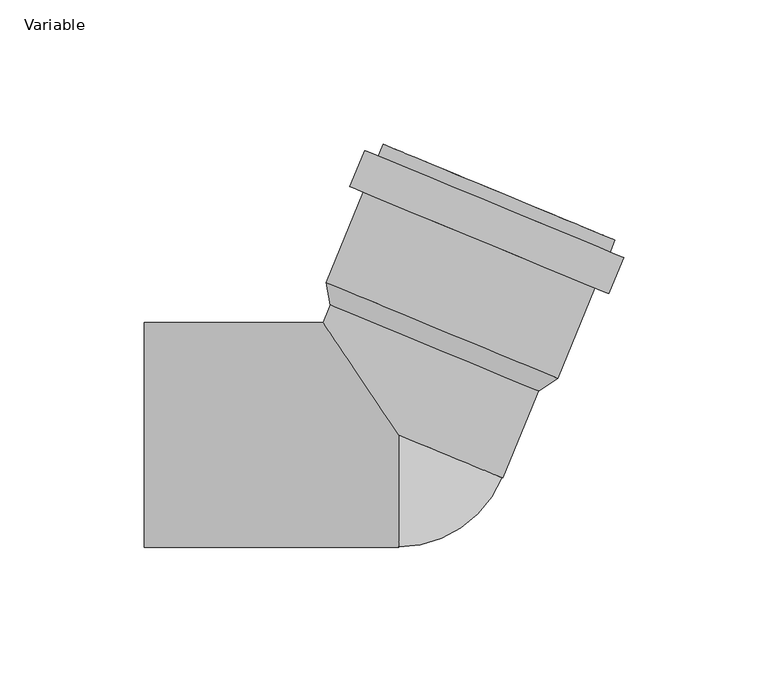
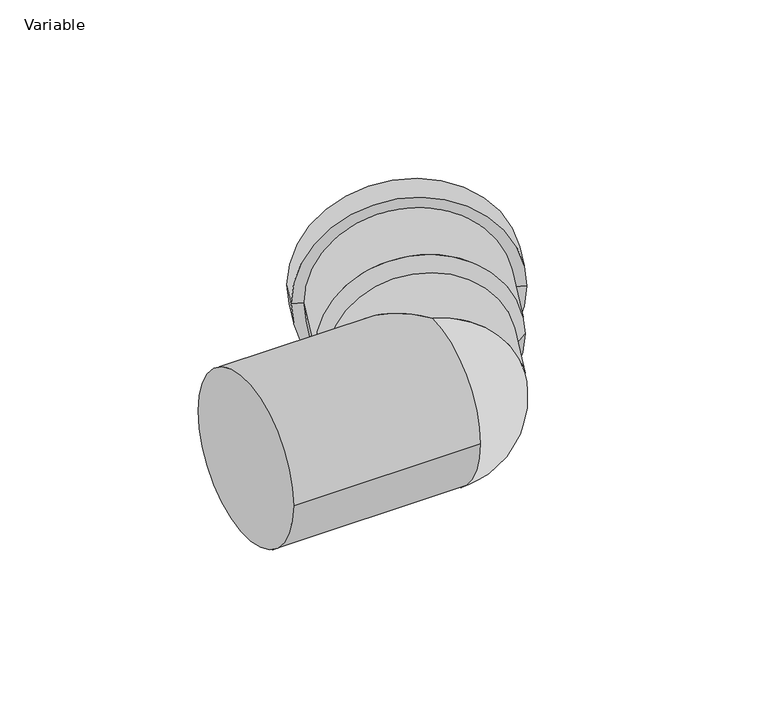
"""IFC4 building model written with IfcOpenShell, lengths in millimetres: pipe fitting geometry, AliaxisFR_Friaphon_ElbowMF_FR : Variable."""

from ifc_helpers import new_model, si_unit, point, frame, origin, place, context, project, spatial, polyline, circle_curve, ellipse_curve, trimmed, source, transform, mapped, element, save
from ifc_brep_helpers import plane_surface, cylinder_surface, revolved_surface, advanced_brep


def variable_9fc40194(model_context):
    return source(origin(), model_context, "Body", "AdvancedBrep", [
        advanced_brep(
        [(74.9205641, 67.4645765, 0.0), (-5.2721794, 100.6814984, 0.0), (-1.2071094, 98.9976913, 0.0), (70.8554941, 69.1483836, 0.0), (72.7440479, 48.8830594, 0.0), (-16.8722668, 86.0033523, 0.0), (-11.6677721, 98.568114, 0.0), (77.9485426, 61.447821, 0.0), (68.0322623, 50.8347449, 0.0), (-12.1604811, 84.0516668, 0.0), (55.0975623, 19.6076167, 0.0), (-25.0951812, 52.8245386, 0.0), (-23.5558219, 45.0431266, 0.0), (48.5067817, 15.1938189, 0.0), (73.236757, 63.3995066, 0.0), (-6.9559865, 96.6164285, 0.0)],
        [
            (0, 1, circle_curve(frame((34.8241923, 84.0730375, 0.0), z_axis=(0.38268343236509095, 0.9238795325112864, 0.0), x_axis=(-0.9238795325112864, 0.38268343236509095, 0.0)), 43.4)),
            (1, 2),
            (2, 3, circle_curve(frame((34.8241923, 84.0730375, 0.0), z_axis=(-0.38268343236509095, -0.9238795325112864, 0.0), x_axis=(-0.9238795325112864, 0.38268343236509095, 0.0)), 39.0)),
            (3, 0),
            (1, 0, circle_curve(frame((34.8241923, 84.0730375, 0.0), z_axis=(0.38268343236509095, 0.9238795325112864, 0.0), x_axis=(-0.9238795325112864, 0.38268343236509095, 0.0)), 43.4)),
            (3, 2, circle_curve(frame((34.8241923, 84.0730375, 0.0), z_axis=(-0.38268343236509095, -0.9238795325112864, 0.0), x_axis=(-0.9238795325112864, 0.38268343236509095, 0.0)), 39.0)),
            (4, 5, circle_curve(frame((27.9358906, 67.4432059, 0.0), z_axis=(0.38268343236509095, 0.9238795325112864, 0.0), x_axis=(-0.9238795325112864, 0.38268343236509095, 0.0)), 48.5)),
            (5, 6),
            (6, 7, circle_curve(frame((33.1403852, 80.0079675, 0.0), z_axis=(-0.38268343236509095, -0.9238795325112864, 0.0), x_axis=(-0.9238795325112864, 0.38268343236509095, 0.0)), 48.5)),
            (7, 4),
            (5, 4, circle_curve(frame((27.9358906, 67.4432059, 0.0), z_axis=(0.38268343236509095, 0.9238795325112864, 0.0), x_axis=(-0.9238795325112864, 0.38268343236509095, 0.0)), 48.5)),
            (7, 6, circle_curve(frame((33.1403852, 80.0079675, 0.0), z_axis=(-0.38268343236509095, -0.9238795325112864, 0.0), x_axis=(-0.9238795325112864, 0.38268343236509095, 0.0)), 48.5)),
            (8, 9, circle_curve(frame((27.9358906, 67.4432059, 0.0), z_axis=(0.38268343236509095, 0.9238795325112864, 0.0), x_axis=(-0.9238795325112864, 0.38268343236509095, 0.0)), 43.4)),
            (9, 5),
            (4, 8),
            (9, 8, circle_curve(frame((27.9358906, 67.4432059, 0.0), z_axis=(0.38268343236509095, 0.9238795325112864, 0.0), x_axis=(-0.9238795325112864, 0.38268343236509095, 0.0)), 43.4)),
            (10, 11, circle_curve(frame((15.0011905, 36.2160777, 0.0), z_axis=(0.38268343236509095, 0.9238795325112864, 0.0), x_axis=(-0.9238795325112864, 0.38268343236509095, 0.0)), 43.4)),
            (11, 9),
            (8, 10),
            (11, 10, circle_curve(frame((15.0011905, 36.2160777, 0.0), z_axis=(0.38268343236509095, 0.9238795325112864, 0.0), x_axis=(-0.9238795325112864, 0.38268343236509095, 0.0)), 43.4)),
            (2, 12),
            (12, 13, circle_curve(frame((12.4754799, 30.1184728, 0.0), z_axis=(-0.38268343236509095, -0.9238795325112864, 0.0), x_axis=(-0.9238795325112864, 0.38268343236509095, 0.0)), 39.0)),
            (13, 3),
            (13, 12, circle_curve(frame((12.4754799, 30.1184728, 0.0), z_axis=(-0.38268343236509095, -0.9238795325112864, 0.0), x_axis=(-0.9238795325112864, 0.38268343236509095, 0.0)), 39.0)),
            (12, 11),
            (10, 13),
            (14, 15, circle_curve(frame((33.1403852, 80.0079675, 0.0), z_axis=(0.38268343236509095, 0.9238795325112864, 0.0), x_axis=(-0.9238795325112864, 0.38268343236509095, 0.0)), 43.4)),
            (15, 1),
            (0, 14),
            (15, 14, circle_curve(frame((33.1403852, 80.0079675, 0.0), z_axis=(0.38268343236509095, 0.9238795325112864, 0.0), x_axis=(-0.9238795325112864, 0.38268343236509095, 0.0)), 43.4)),
            (6, 15),
            (14, 7),
        ],
        [
            plane_surface(frame((34.8241923, 84.0730375, 0.0), z_axis=(0.38268343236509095, 0.9238795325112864, 0.0), x_axis=(-0.9238795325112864, 0.38268343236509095, 0.0))),
            cylinder_surface(frame((12.4754799, 30.1184728, 0.0), z_axis=(-0.38268343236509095, -0.9238795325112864, 0.0), x_axis=(-0.9238795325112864, 0.38268343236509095, 0.0)), 48.5),
            plane_surface(frame((27.9358906, 67.4432059, 0.0), z_axis=(-0.38268343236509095, -0.9238795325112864, 0.0), x_axis=(-0.9238795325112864, 0.38268343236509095, 0.0))),
            cylinder_surface(frame((12.4754799, 30.1184728, 0.0), z_axis=(-0.38268343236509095, -0.9238795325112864, 0.0), x_axis=(-0.9238795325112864, 0.38268343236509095, 0.0)), 43.4),
            revolved_surface(polyline([(-23.555821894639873, 45.04312659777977, 0.0), (-1.2071094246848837, 98.99769134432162, 0.0)]), (12.4754799, 30.1184728, 0.0), (-0.38268343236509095, -0.9238795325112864, 0.0)),
            revolved_surface(polyline([(-25.0951812, 52.8245386, 0.0), (-23.5558219, 45.0431266, 0.0)]), (12.4754799, 30.1184728, 0.0), (-0.38268343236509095, -0.9238795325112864, 0.0)),
            plane_surface(frame((33.1403852, 80.0079675, 0.0), z_axis=(0.38268343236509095, 0.9238795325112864, 0.0), x_axis=(-0.9238795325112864, 0.38268343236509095, 0.0))),
        ],
        [
            (0, [[1, 2, 3, 4]]),
            (0, [[5, -4, 6, -2]]),
            (1, [[7, 8, 9, 10]]),
            (1, [[11, -10, 12, -8]]),
            (2, [[13, 14, -7, 15]]),
            (2, [[16, -15, -11, -14]]),
            (3, [[17, 18, -13, 19]]),
            (3, [[20, -19, -16, -18]]),
            (4, [[-3, 21, 22, 23]]),
            (4, [[-6, -23, 24, -21]]),
            (5, [[-22, 25, -17, 26]]),
            (5, [[-24, -26, -20, -25]]),
            (3, [[27, 28, -1, 29]]),
            (3, [[30, -29, -5, -28]]),
            (6, [[-9, 31, -27, 32]]),
            (6, [[-12, -32, -30, -31]]),
        ],
    ),
        advanced_brep(
        [(-21.8720148, 49.1081966, 0.0), (14.159287, 34.1835427, 39.0), (50.1905888, 19.2588888, 0.0), (14.159287, 34.1835427, -39.0), (36.0313018, -14.9246539, 0.0), (-26.0589669, 39.0, 0.0), (0.0, 0.0, 39.0), (0.0, 0.0, -39.0), (-88.0, -39.0, 0.0), (-88.0, 39.0, 0.0), (0.0, -39.0, 0.0)],
        [
            (0, 1, circle_curve(frame((14.159287, 34.1835427, 0.0), z_axis=(0.38268343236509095, 0.9238795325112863, 0.0), x_axis=(-0.9238795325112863, 0.38268343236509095, 0.0)), 39.0)),
            (1, 2, circle_curve(frame((14.159287, 34.1835427, 0.0), z_axis=(0.38268343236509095, 0.9238795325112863, 0.0), x_axis=(-0.9238795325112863, 0.38268343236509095, 0.0)), 39.0)),
            (2, 3, circle_curve(frame((14.159287, 34.1835427, 0.0), z_axis=(0.38268343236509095, 0.9238795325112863, 0.0), x_axis=(-0.9238795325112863, 0.38268343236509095, 0.0)), 39.0)),
            (3, 0, circle_curve(frame((14.159287, 34.1835427, 0.0), z_axis=(0.38268343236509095, 0.9238795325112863, 0.0), x_axis=(-0.9238795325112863, 0.38268343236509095, 0.0)), 39.0)),
            (4, 2),
            (0, 5),
            (5, 6, ellipse_curve(frame((0.0, 0.0, 0.0), z_axis=(0.8314696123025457, 0.5555702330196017, 0.0), x_axis=(0.5555702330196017, -0.8314696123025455, 0.0)), 46.9049012, 39.0)),
            (6, 4, circle_curve(frame((0.0, 0.0, 0.0), z_axis=(0.38268343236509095, 0.9238795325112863, 0.0), x_axis=(-0.9238795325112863, 0.38268343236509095, 0.0)), 39.0)),
            (4, 7, circle_curve(frame((0.0, 0.0, 0.0), z_axis=(0.38268343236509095, 0.9238795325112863, 0.0), x_axis=(-0.9238795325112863, 0.38268343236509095, 0.0)), 39.0)),
            (7, 5, ellipse_curve(frame((0.0, 0.0, 0.0), z_axis=(0.8314696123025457, 0.5555702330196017, 0.0), x_axis=(0.5555702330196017, -0.8314696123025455, 0.0)), 46.9049012, 39.0)),
            (8, 9, circle_curve(frame((-88.0, 0.0, 0.0), z_axis=(-1.0, 0.0, 0.0), x_axis=(0.0, 1.0, 0.0)), 39.0)),
            (9, 8, circle_curve(frame((-88.0, 0.0, 0.0), z_axis=(-1.0, 0.0, 0.0), x_axis=(0.0, 1.0, 0.0)), 39.0)),
            (8, 10),
            (10, 6, circle_curve(frame((0.0, 0.0, 0.0), z_axis=(-1.0, 0.0, 0.0), x_axis=(0.0, 1.0, 0.0)), 39.0)),
            (5, 9),
            (7, 10, circle_curve(frame((0.0, 0.0, 0.0), z_axis=(-1.0, 0.0, 0.0), x_axis=(0.0, 1.0, 0.0)), 39.0)),
        ],
        [
            plane_surface(frame((14.159287, 34.1835427, 0.0), z_axis=(0.38268343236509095, 0.9238795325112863, 0.0), x_axis=(0.0, 0.0, 1.0))),
            cylinder_surface(frame((0.0, 0.0, 0.0), z_axis=(-0.38268343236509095, -0.9238795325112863, 0.0), x_axis=(-0.9238795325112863, 0.38268343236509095, 0.0)), 39.0),
            plane_surface(frame((-88.0, 0.0, 0.0), z_axis=(-1.0, 0.0, 0.0), x_axis=(0.0, 0.0, 1.0))),
            cylinder_surface(frame((-88.0, 0.0, 0.0), z_axis=(-1.0, 0.0, 0.0), x_axis=(0.0, 1.0, 0.0)), 39.0),
            revolved_surface(trimmed(ellipse_curve(frame((0.0, 0.0, 0.0), z_axis=(0.3826834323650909, 0.9238795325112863, 0.0), x_axis=(-0.9238795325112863, 0.3826834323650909, 0.0)), 39.0, 39.0), [point((0.0, 0.0, 39.0))], [point((0.0, 0.0, -39.0))], True, "CARTESIAN"), (0.0, 0.0, 39.0), (0.0, 0.0, -1.0)),
        ],
        [
            (0, [[1, 2, 3, 4]]),
            (1, [[5, -2, -1, 6, 7, 8]]),
            (1, [[-5, 9, 10, -6, -4, -3]]),
            (2, [[11, 12]]),
            (3, [[-11, 13, 14, -7, 15]]),
            (3, [[-12, -15, -10, 16, -13]]),
            (4, [[-14, -16, -9, -8]]),
        ],
    ),
    ])


if __name__ == "__main__":
    model = new_model("IFC4")
    model_context = context("Model", 3, world=origin())
    ifc_project = project(units=[si_unit("LENGTHUNIT", "METRE", prefix="MILLI")], contexts=[model_context])
    site = spatial("IfcSite", under=ifc_project)
    building = spatial("IfcBuilding", under=site)
    placement = place(None, origin())
    variable_shape = variable_9fc40194(model_context)
    element("IfcPipeFitting", 1, ObjectType="AliaxisFR_Friaphon_ElbowMF_FR : Variable", at=placement, inside=building, context=model_context, shape_type="MappedRepresentation", body=[
        mapped(variable_shape, transform((0.0, 0.0, 0.0), x_axis=(1.0, 0.0, 0.0), y_axis=(0.0, 1.0, 0.0), z_axis=(0.0, 0.0, 1.0))),
    ])
    save(model, "model.ifc")
